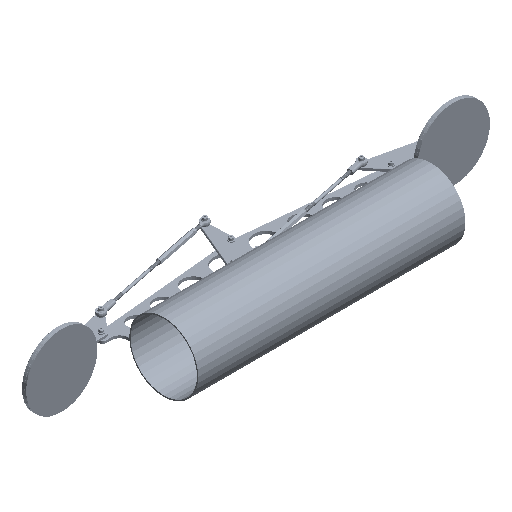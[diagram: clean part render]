
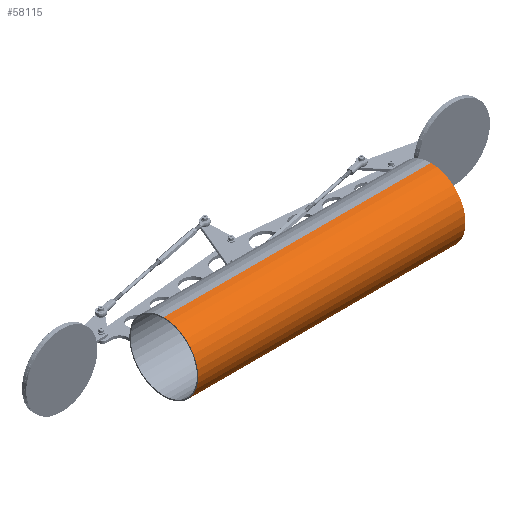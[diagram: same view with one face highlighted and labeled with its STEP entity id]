
A CAD part, isometric view. The second image highlights one B-rep face of the part: STEP entity #58115.
In plain terms, the highlighted cylindrical face has radius 76.2 mm (diameter 152.4 mm), a partial arc.
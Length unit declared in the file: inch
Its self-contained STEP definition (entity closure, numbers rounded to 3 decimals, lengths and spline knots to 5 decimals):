
#6743 = LINE ( 'NONE', #71064, #58483 ) ;
#10455 = CIRCLE ( 'NONE', #13164, 3. ) ;
#13081 = CARTESIAN_POINT ( 'NONE',  ( 3., 0., 11.625 ) ) ;
#13164 = AXIS2_PLACEMENT_3D ( 'NONE', #57802, #63672, #58604 ) ;
#13538 = CARTESIAN_POINT ( 'NONE',  ( 0., 0., 11.625 ) ) ;
#17662 = VERTEX_POINT ( 'NONE', #78338 ) ;
#18971 = EDGE_CURVE ( 'NONE', #64747, #71844, #58502, .T. ) ;
#19419 = DIRECTION ( 'NONE',  ( 0., 0., -1. ) ) ;
#25801 = ORIENTED_EDGE ( 'NONE', *, *, #18971, .T. ) ;
#25925 = DIRECTION ( 'NONE',  ( 0., 0., 1. ) ) ;
#29576 = VECTOR ( 'NONE', #56196, 39.37008 ) ;
#29619 = EDGE_CURVE ( 'NONE', #17662, #30039, #10455, .T. ) ;
#30039 = VERTEX_POINT ( 'NONE', #13081 ) ;
#32956 = AXIS2_PLACEMENT_3D ( 'NONE', #37311, #25925, #75581 ) ;
#37311 = CARTESIAN_POINT ( 'NONE',  ( 0., 0., -11.625 ) ) ;
#38819 = EDGE_CURVE ( 'NONE', #30039, #71844, #6743, .T. ) ;
#42739 = CARTESIAN_POINT ( 'NONE',  ( -3., 0., 11.625 ) ) ;
#42902 = ORIENTED_EDGE ( 'NONE', *, *, #29619, .F. ) ;
#43223 = CARTESIAN_POINT ( 'NONE',  ( 3., 0., -11.625 ) ) ;
#45438 = CARTESIAN_POINT ( 'NONE',  ( -3., 0., -11.625 ) ) ;
#45949 = EDGE_LOOP ( 'NONE', ( #73310, #42902, #74570, #25801 ) ) ;
#50462 = DIRECTION ( 'NONE',  ( 0., 0., -1. ) ) ;
#52209 = CYLINDRICAL_SURFACE ( 'NONE', #60333, 3. ) ;
#56196 = DIRECTION ( 'NONE',  ( 0., 0., -1. ) ) ;
#57026 = LINE ( 'NONE', #42739, #29576 ) ;
#57802 = CARTESIAN_POINT ( 'NONE',  ( 0., 0., 11.625 ) ) ;
#58115 = ADVANCED_FACE ( 'NONE', ( #77038 ), #52209, .T. ) ;
#58483 = VECTOR ( 'NONE', #50462, 39.37008 ) ;
#58502 = CIRCLE ( 'NONE', #32956, 3. ) ;
#58604 = DIRECTION ( 'NONE',  ( 1., 0., 0. ) ) ;
#59400 = EDGE_CURVE ( 'NONE', #17662, #64747, #57026, .T. ) ;
#60333 = AXIS2_PLACEMENT_3D ( 'NONE', #13538, #19419, #70318 ) ;
#63672 = DIRECTION ( 'NONE',  ( 0., 0., 1. ) ) ;
#64747 = VERTEX_POINT ( 'NONE', #45438 ) ;
#70318 = DIRECTION ( 'NONE',  ( -1., 0., 0. ) ) ;
#71064 = CARTESIAN_POINT ( 'NONE',  ( 3., 0., 11.625 ) ) ;
#71844 = VERTEX_POINT ( 'NONE', #43223 ) ;
#73310 = ORIENTED_EDGE ( 'NONE', *, *, #38819, .F. ) ;
#74570 = ORIENTED_EDGE ( 'NONE', *, *, #59400, .T. ) ;
#75581 = DIRECTION ( 'NONE',  ( 1., 0., 0. ) ) ;
#77038 = FACE_OUTER_BOUND ( 'NONE', #45949, .T. ) ;
#78338 = CARTESIAN_POINT ( 'NONE',  ( -3., 0., 11.625 ) ) ;
